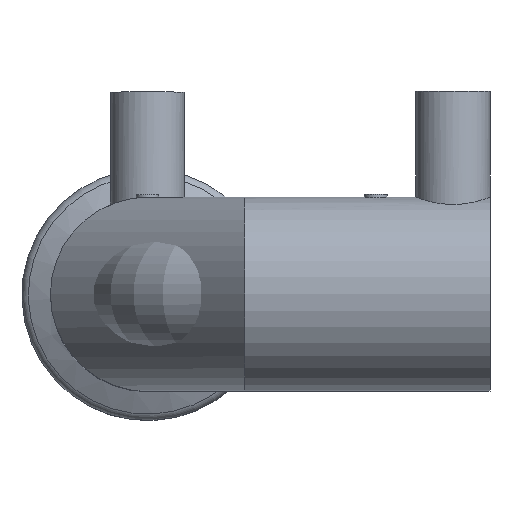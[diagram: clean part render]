
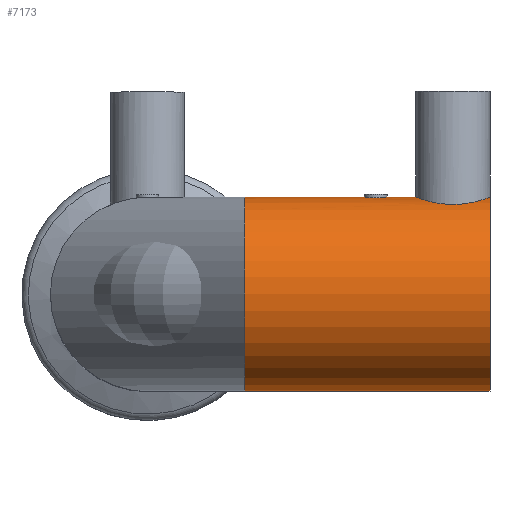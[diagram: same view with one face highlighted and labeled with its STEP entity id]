
A CAD part, top view. The second image highlights one B-rep face of the part: STEP entity #7173.
In plain terms, the highlighted cylindrical face has radius 17 mm (diameter 34 mm), a full revolution.
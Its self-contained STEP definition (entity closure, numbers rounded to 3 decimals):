
#651=CIRCLE('',#9221,17.);
#652=CIRCLE('',#9222,17.);
#1063=ORIENTED_EDGE('',*,*,#3385,.T.);
#1064=ORIENTED_EDGE('',*,*,#3386,.T.);
#1065=ORIENTED_EDGE('',*,*,#3387,.F.);
#1066=ORIENTED_EDGE('',*,*,#3388,.F.);
#3385=EDGE_CURVE('',#4546,#4546,#5317,.T.);
#3386=EDGE_CURVE('',#4547,#4547,#651,.F.);
#3387=EDGE_CURVE('',#4548,#4548,#652,.F.);
#3388=EDGE_CURVE('',#4548,#4548,#5318,.T.);
#4546=VERTEX_POINT('',#11863);
#4547=VERTEX_POINT('',#11865);
#4548=VERTEX_POINT('',#11867);
#5317=B_SPLINE_CURVE_WITH_KNOTS('',3,(#11852,#11853,#11854,#11855,#11856,
#11857,#11858,#11859,#11860,#11861,#11862),.UNSPECIFIED.,.T.,.F.,(1,1,1,
1,1,1,1,1,1,1,1,1,1,1,1),(-0.005,-0.003,-0.002,
0.,0.002,0.003,0.005,0.006,
0.008,0.009,0.011,0.013,
0.014,0.016,0.017),.UNSPECIFIED.);
#5318=B_SPLINE_CURVE_WITH_KNOTS('',3,(#11868,#11869,#11870,#11871,#11872,
#11873,#11874,#11875,#11876,#11877,#11878,#11879,#11880,#11881,#11882,#11883,
#11884,#11885,#11886),.UNSPECIFIED.,.T.,.F.,(1,1,1,1,1,1,1,1,1,1,1,1,1,
1,1,1,1,1,1,1,1,1,1),(-0.008,-0.005,-0.003,
0.,0.003,0.005,0.008,
0.01,0.013,0.015,0.018,
0.021,0.023,0.026,0.028,
0.031,0.033,0.036,0.038,
0.041,0.044,0.046,0.049),
 .UNSPECIFIED.);
#5897=EDGE_LOOP('',(#1063));
#5898=EDGE_LOOP('',(#1064));
#5899=EDGE_LOOP('',(#1065,#1066));
#6439=FACE_BOUND('',#5897,.T.);
#6440=FACE_BOUND('',#5898,.T.);
#6441=FACE_BOUND('',#5899,.T.);
#6981=CYLINDRICAL_SURFACE('',#9220,17.);
#7173=ADVANCED_FACE('',(#6439,#6440,#6441),#6981,.T.);
#9220=AXIS2_PLACEMENT_3D('',#11851,#10042,#10043);
#9221=AXIS2_PLACEMENT_3D('',#11864,#10044,#10045);
#9222=AXIS2_PLACEMENT_3D('',#11866,#10046,#10047);
#10042=DIRECTION('',(-1.,0.,0.));
#10043=DIRECTION('',(0.,0.,1.));
#10044=DIRECTION('',(-1.,0.,0.));
#10045=DIRECTION('',(0.,0.,-1.));
#10046=DIRECTION('',(-1.,0.,0.));
#10047=DIRECTION('',(0.,0.,-1.));
#11851=CARTESIAN_POINT('',(60.,0.,60.));
#11852=CARTESIAN_POINT('',(38.431,16.941,58.434));
#11853=CARTESIAN_POINT('',(40.,16.852,57.783));
#11854=CARTESIAN_POINT('',(41.567,16.941,58.434));
#11855=CARTESIAN_POINT('',(42.216,17.029,59.998));
#11856=CARTESIAN_POINT('',(41.568,16.941,61.567));
#11857=CARTESIAN_POINT('',(40.,16.852,62.216));
#11858=CARTESIAN_POINT('',(38.435,16.941,61.569));
#11859=CARTESIAN_POINT('',(37.784,17.029,60.002));
#11860=CARTESIAN_POINT('',(38.431,16.941,58.434));
#11861=CARTESIAN_POINT('',(40.,16.852,57.783));
#11862=CARTESIAN_POINT('',(41.567,16.941,58.434));
#11863=CARTESIAN_POINT('',(40.,16.882,58.));
#11864=CARTESIAN_POINT('',(17.,0.,60.));
#11865=CARTESIAN_POINT('',(17.,0.,43.));
#11866=CARTESIAN_POINT('',(60.,0.,60.));
#11867=CARTESIAN_POINT('',(60.,17.,60.));
#11868=CARTESIAN_POINT('',(59.654,16.863,62.569));
#11869=CARTESIAN_POINT('',(60.174,17.069,60.002));
#11870=CARTESIAN_POINT('',(59.652,16.862,57.422));
#11871=CARTESIAN_POINT('',(58.209,16.369,55.285));
#11872=CARTESIAN_POINT('',(56.075,15.859,53.849));
#11873=CARTESIAN_POINT('',(53.507,15.633,53.326));
#11874=CARTESIAN_POINT('',(50.927,15.858,53.846));
#11875=CARTESIAN_POINT('',(48.786,16.37,55.289));
#11876=CARTESIAN_POINT('',(47.348,16.863,57.427));
#11877=CARTESIAN_POINT('',(46.827,17.069,59.997));
#11878=CARTESIAN_POINT('',(47.346,16.863,62.573));
#11879=CARTESIAN_POINT('',(48.791,16.369,64.717));
#11880=CARTESIAN_POINT('',(50.93,15.858,66.154));
#11881=CARTESIAN_POINT('',(53.502,15.633,66.674));
#11882=CARTESIAN_POINT('',(56.076,15.859,66.152));
#11883=CARTESIAN_POINT('',(58.214,16.37,64.712));
#11884=CARTESIAN_POINT('',(59.654,16.863,62.569));
#11885=CARTESIAN_POINT('',(60.174,17.069,60.002));
#11886=CARTESIAN_POINT('',(59.652,16.862,57.422));
